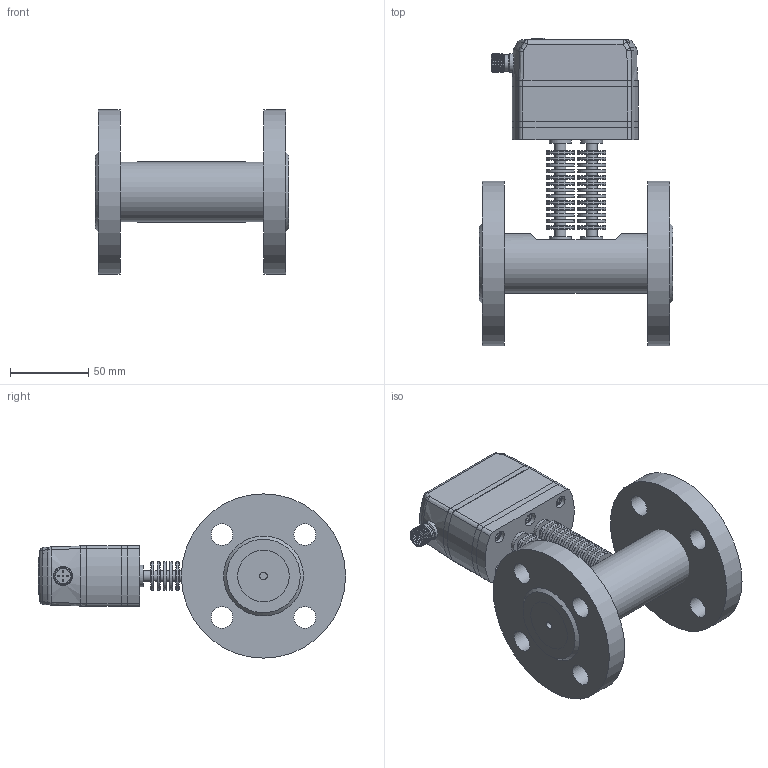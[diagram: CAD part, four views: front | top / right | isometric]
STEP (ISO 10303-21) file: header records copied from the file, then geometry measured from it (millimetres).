
FILE_DESCRIPTION( (''), '2;1');
FILE_NAME( 'QEKH_DN20_flange_cooling-fins_1.step', '2025-04-29T11:15:33+08:00', (''), (''), '', '', '');
FILE_SCHEMA (('AUTOMOTIVE_DESIGN { 1 0 10303 214 3 1 1 1 }'));
Length unit declared in the file: millimetre
Products named in the file (1): QEKH DN20_flange_cooling-fins_1
Bounding box: 124 x 196.4 x 105 mm (x, y, z)
Volume: 546909.3 mm3; surface area: 153645.1 mm2
Topology: 28 solids, 31 shells, 1701 faces, 4067 edges, 2593 vertices
Faces by surface type: plane 799, cylinder 350, extrusion 239, cone 204, torus 52, bspline 48, sphere 9
Full cylindrical faces by diameter (mm): 1 x10, 2.05 x4, 2.6 x4, 2.7 x5, 2.874 x4, 3 x6, 3.1 x1, 3.3 x8, 3.5 x7, 3.838 x6, 4.2 x2, 4.5 x12, 5 x3, 5.5 x10, 7 x34, 8 x4, 9 x2, 9.8 x2, 10.8 x1, 11 x4, 11.5 x2, 11.992 x2, 12 x8, 14 x14, 14.5 x2, 17 x2, 18 x26, 19.1 x6, 33 x4, 38 x1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
Entity records: 54128 total; most frequent: CARTESIAN_POINT 16828, ORIENTED_EDGE 7238, DIRECTION 6983, EDGE_CURVE 3619, VERTEX_POINT 2507, AXIS2_PLACEMENT_3D 2451, EDGE_LOOP 2292, VECTOR 2081
